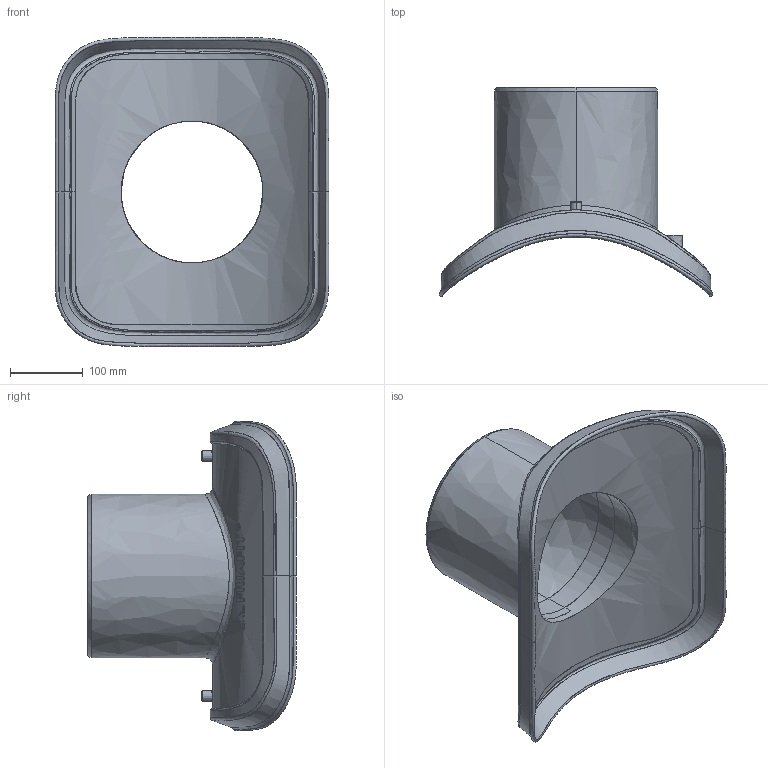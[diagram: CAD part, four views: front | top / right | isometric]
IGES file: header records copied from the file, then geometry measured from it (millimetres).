
Start section:  PTC IGES file: asa-vl_d450.igs
Global section: file name: asa-vl_d450.igs; native system: Pro/ENGINEER by Parametric Technology Corporation; preprocessor: 2011490; author: mtunjic; organization: Unknown; date: 20130724.084150; units: millimetre
Bounding box: 376.23 x 287.28 x 425.08 mm (x, y, z)
Surface area: 596367.9 mm2 (no closed solid volume)
Topology: 0 solids, 0 shells, 194 faces, 966 edges, 966 vertices
Faces by surface type: bspline 194
